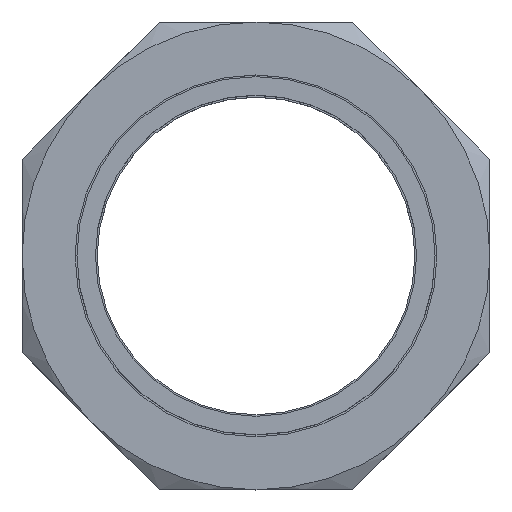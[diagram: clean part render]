
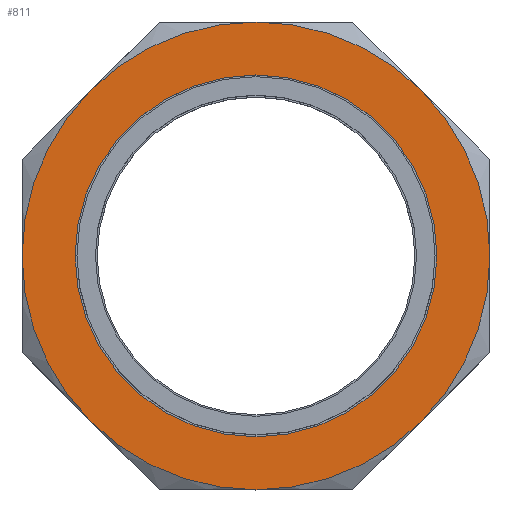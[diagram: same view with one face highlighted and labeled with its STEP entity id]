
A CAD part, top view. The second image highlights one B-rep face of the part: STEP entity #811.
In plain terms, the highlighted planar face has unit normal (0, 0, 1).
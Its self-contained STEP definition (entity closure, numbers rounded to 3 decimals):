
#36 = EDGE_CURVE ( 'NONE', #1237, #1226, #512, .T. ) ;
#45 = VERTEX_POINT ( 'NONE', #546 ) ;
#48 = VERTEX_POINT ( 'NONE', #494 ) ;
#51 = VERTEX_POINT ( 'NONE', #528 ) ;
#53 = VERTEX_POINT ( 'NONE', #517 ) ;
#59 = EDGE_CURVE ( 'NONE', #51, #45, #624, .T. ) ;
#62 = EDGE_CURVE ( 'NONE', #45, #48, #516, .T. ) ;
#66 = EDGE_CURVE ( 'NONE', #53, #51, #571, .T. ) ;
#94 = EDGE_CURVE ( 'NONE', #95, #97, #1597, .T. ) ;
#95 = VERTEX_POINT ( 'NONE', #1598 ) ;
#96 = EDGE_CURVE ( 'NONE', #97, #1237, #1558, .T. ) ;
#97 = VERTEX_POINT ( 'NONE', #1576 ) ;
#134 = CARTESIAN_POINT ( 'NONE',  ( 45.255, -45.255, 14.5 ) ) ;
#154 = DIRECTION ( 'NONE',  ( 1., 0., 0. ) ) ;
#155 = AXIS2_PLACEMENT_3D ( 'NONE', #158, #159, #154 ) ;
#158 = CARTESIAN_POINT ( 'NONE',  ( 0., 0., 14.5 ) ) ;
#159 = DIRECTION ( 'NONE',  ( 0., 0., 1. ) ) ;
#160 = CIRCLE ( 'NONE', #155, 64. ) ;
#199 = CARTESIAN_POINT ( 'NONE',  ( -49.5, 0., 14.5 ) ) ;
#200 = CIRCLE ( 'NONE', #206, 49.5 ) ;
#201 = CARTESIAN_POINT ( 'NONE',  ( 49.5, 0., 14.5 ) ) ;
#203 = DIRECTION ( 'NONE',  ( 1., 0., 0. ) ) ;
#204 = DIRECTION ( 'NONE',  ( 0., 0., 1. ) ) ;
#205 = CARTESIAN_POINT ( 'NONE',  ( 0., 0., 14.5 ) ) ;
#206 = AXIS2_PLACEMENT_3D ( 'NONE', #205, #204, #203 ) ;
#431 = DIRECTION ( 'NONE',  ( 0., 0., 1. ) ) ;
#432 = CARTESIAN_POINT ( 'NONE',  ( 0., 0., 14.5 ) ) ;
#433 = AXIS2_PLACEMENT_3D ( 'NONE', #432, #431, #536 ) ;
#470 = CARTESIAN_POINT ( 'NONE',  ( 0., 0., 14.5 ) ) ;
#478 = DIRECTION ( 'NONE',  ( 1., 0., 0. ) ) ;
#479 = DIRECTION ( 'NONE',  ( 0., 0., 1. ) ) ;
#494 = CARTESIAN_POINT ( 'NONE',  ( -64., 0., 14.5 ) ) ;
#511 = AXIS2_PLACEMENT_3D ( 'NONE', #470, #479, #478 ) ;
#512 = CIRCLE ( 'NONE', #511, 64. ) ;
#516 = CIRCLE ( 'NONE', #433, 64. ) ;
#517 = CARTESIAN_POINT ( 'NONE',  ( 45.255, 45.255, 14.5 ) ) ;
#528 = CARTESIAN_POINT ( 'NONE',  ( 0., 64., 14.5 ) ) ;
#536 = DIRECTION ( 'NONE',  ( 1., 0., 0. ) ) ;
#546 = CARTESIAN_POINT ( 'NONE',  ( -45.255, 45.255, 14.5 ) ) ;
#563 = CARTESIAN_POINT ( 'NONE',  ( 0., 0., 14.5 ) ) ;
#566 = DIRECTION ( 'NONE',  ( 1., 0., 0. ) ) ;
#567 = DIRECTION ( 'NONE',  ( 0., 0., 1. ) ) ;
#570 = AXIS2_PLACEMENT_3D ( 'NONE', #563, #567, #566 ) ;
#571 = CIRCLE ( 'NONE', #570, 64. ) ;
#616 = DIRECTION ( 'NONE',  ( 1., 0., 0. ) ) ;
#617 = DIRECTION ( 'NONE',  ( 0., 0., 1. ) ) ;
#618 = CARTESIAN_POINT ( 'NONE',  ( 0., 0., 14.5 ) ) ;
#623 = AXIS2_PLACEMENT_3D ( 'NONE', #618, #617, #616 ) ;
#624 = CIRCLE ( 'NONE', #623, 64. ) ;
#800 = EDGE_LOOP ( 'NONE', ( #812, #813 ) ) ;
#809 = ORIENTED_EDGE ( 'NONE', *, *, #1225, .T. ) ;
#810 = EDGE_CURVE ( 'NONE', #1115, #1112, #1400, .T. ) ;
#811 = ADVANCED_FACE ( 'NONE', ( #1304, #1303 ), #1296, .F. ) ;
#812 = ORIENTED_EDGE ( 'NONE', *, *, #810, .F. ) ;
#813 = ORIENTED_EDGE ( 'NONE', *, *, #1114, .F. ) ;
#814 = EDGE_LOOP ( 'NONE', ( #809, #816, #815, #823, #826, #825, #829, #1499 ) ) ;
#815 = ORIENTED_EDGE ( 'NONE', *, *, #59, .T. ) ;
#816 = ORIENTED_EDGE ( 'NONE', *, *, #66, .T. ) ;
#823 = ORIENTED_EDGE ( 'NONE', *, *, #62, .T. ) ;
#825 = ORIENTED_EDGE ( 'NONE', *, *, #94, .T. ) ;
#826 = ORIENTED_EDGE ( 'NONE', *, *, #2366, .T. ) ;
#829 = ORIENTED_EDGE ( 'NONE', *, *, #96, .T. ) ;
#902 = DIRECTION ( 'NONE',  ( 0., 0., 1. ) ) ;
#903 = CARTESIAN_POINT ( 'NONE',  ( 0., 0., 14.5 ) ) ;
#907 = DIRECTION ( 'NONE',  ( 1., 0., 0. ) ) ;
#960 = AXIS2_PLACEMENT_3D ( 'NONE', #903, #902, #907 ) ;
#968 = CIRCLE ( 'NONE', #960, 64. ) ;
#970 = CARTESIAN_POINT ( 'NONE',  ( 64., 0., 14.5 ) ) ;
#1112 = VERTEX_POINT ( 'NONE', #199 ) ;
#1114 = EDGE_CURVE ( 'NONE', #1112, #1115, #200, .T. ) ;
#1115 = VERTEX_POINT ( 'NONE', #201 ) ;
#1225 = EDGE_CURVE ( 'NONE', #1226, #53, #968, .T. ) ;
#1226 = VERTEX_POINT ( 'NONE', #970 ) ;
#1237 = VERTEX_POINT ( 'NONE', #134 ) ;
#1238 = AXIS2_PLACEMENT_3D ( 'NONE', #1239, #1240, #1243 ) ;
#1239 = CARTESIAN_POINT ( 'NONE',  ( 0., 0., 14.5 ) ) ;
#1240 = DIRECTION ( 'NONE',  ( 0., 0., 1. ) ) ;
#1243 = DIRECTION ( 'NONE',  ( 1., 0., 0. ) ) ;
#1295 = CARTESIAN_POINT ( 'NONE',  ( 0., 64., 14.5 ) ) ;
#1296 = PLANE ( 'NONE',  #1299 ) ;
#1299 = AXIS2_PLACEMENT_3D ( 'NONE', #1295, #1305, #1300 ) ;
#1300 = DIRECTION ( 'NONE',  ( -1., 0., 0. ) ) ;
#1303 = FACE_OUTER_BOUND ( 'NONE', #814, .T. ) ;
#1304 = FACE_BOUND ( 'NONE', #800, .T. ) ;
#1305 = DIRECTION ( 'NONE',  ( 0., 0., -1. ) ) ;
#1400 = CIRCLE ( 'NONE', #1238, 49.5 ) ;
#1499 = ORIENTED_EDGE ( 'NONE', *, *, #36, .T. ) ;
#1558 = CIRCLE ( 'NONE', #1575, 64. ) ;
#1559 = DIRECTION ( 'NONE',  ( 1., 0., 0. ) ) ;
#1560 = AXIS2_PLACEMENT_3D ( 'NONE', #1596, #1590, #1559 ) ;
#1574 = CARTESIAN_POINT ( 'NONE',  ( 0., 0., 14.5 ) ) ;
#1575 = AXIS2_PLACEMENT_3D ( 'NONE', #1574, #1582, #1581 ) ;
#1576 = CARTESIAN_POINT ( 'NONE',  ( 0., -64., 14.5 ) ) ;
#1581 = DIRECTION ( 'NONE',  ( 1., 0., 0. ) ) ;
#1582 = DIRECTION ( 'NONE',  ( 0., 0., 1. ) ) ;
#1590 = DIRECTION ( 'NONE',  ( 0., 0., 1. ) ) ;
#1596 = CARTESIAN_POINT ( 'NONE',  ( 0., 0., 14.5 ) ) ;
#1597 = CIRCLE ( 'NONE', #1560, 64. ) ;
#1598 = CARTESIAN_POINT ( 'NONE',  ( -45.255, -45.255, 14.5 ) ) ;
#2366 = EDGE_CURVE ( 'NONE', #48, #95, #160, .T. ) ;
